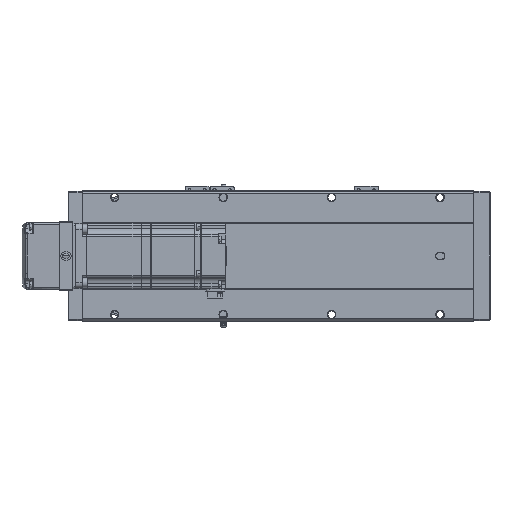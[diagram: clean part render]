
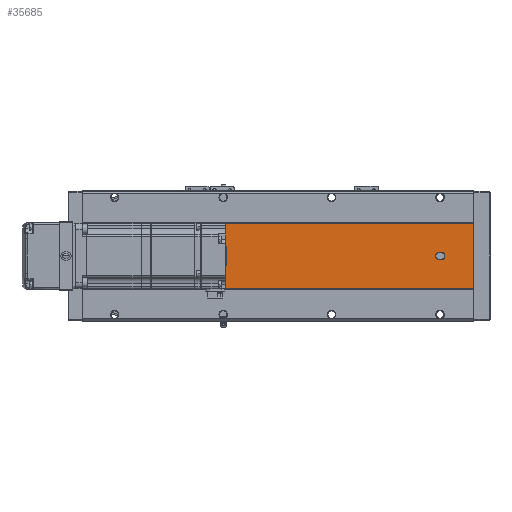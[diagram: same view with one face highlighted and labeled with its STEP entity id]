
A CAD part, front view. The second image highlights one B-rep face of the part: STEP entity #35685.
In plain terms, the highlighted planar face has unit normal (0, -1, 0).
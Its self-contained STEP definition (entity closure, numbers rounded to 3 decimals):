
#892 = VECTOR ( 'NONE', #28754, 1000. ) ;
#1267 = DIRECTION ( 'NONE',  ( 1., 0., 0. ) ) ;
#1910 = DIRECTION ( 'NONE',  ( 0., 1., 0. ) ) ;
#3615 = ORIENTED_EDGE ( 'NONE', *, *, #65077, .T. ) ;
#3944 = ORIENTED_EDGE ( 'NONE', *, *, #25605, .F. ) ;
#4463 = VECTOR ( 'NONE', #23974, 1000. ) ;
#7072 = DIRECTION ( 'NONE',  ( 0., 0., -1. ) ) ;
#7559 = DIRECTION ( 'NONE',  ( 0., 0., 1. ) ) ;
#8546 = ORIENTED_EDGE ( 'NONE', *, *, #42587, .T. ) ;
#9043 = ORIENTED_EDGE ( 'NONE', *, *, #15286, .T. ) ;
#9161 = CARTESIAN_POINT ( 'NONE',  ( -36.392, -52.848, 30. ) ) ;
#9472 = VERTEX_POINT ( 'NONE', #49500 ) ;
#9738 = VERTEX_POINT ( 'NONE', #25576 ) ;
#10846 = CIRCLE ( 'NONE', #27385, 3.5 ) ;
#11023 = LINE ( 'NONE', #71124, #37769 ) ;
#12187 = DIRECTION ( 'NONE',  ( 0., 1., 0. ) ) ;
#12765 = CARTESIAN_POINT ( 'NONE',  ( -43.392, -52.848, 30. ) ) ;
#12896 = CARTESIAN_POINT ( 'NONE',  ( -39.892, -52.848, 32. ) ) ;
#13295 = DIRECTION ( 'NONE',  ( 1., 0., 0. ) ) ;
#13731 = CARTESIAN_POINT ( 'NONE',  ( -69.892, -52.848, 361. ) ) ;
#13988 = DIRECTION ( 'NONE',  ( 0., 1., 0. ) ) ;
#14129 = CARTESIAN_POINT ( 'NONE',  ( -39.892, -52.848, 30. ) ) ;
#14337 = EDGE_CURVE ( 'NONE', #23938, #55746, #47330, .T. ) ;
#14511 = CIRCLE ( 'NONE', #26936, 3.5 ) ;
#15286 = EDGE_CURVE ( 'NONE', #36346, #25995, #65251, .T. ) ;
#16071 = AXIS2_PLACEMENT_3D ( 'NONE', #57130, #1910, #40495 ) ;
#16957 = VERTEX_POINT ( 'NONE', #29328 ) ;
#18905 = CARTESIAN_POINT ( 'NONE',  ( -69.892, -52.848, 361. ) ) ;
#18994 = LINE ( 'NONE', #24174, #29305 ) ;
#19523 = CARTESIAN_POINT ( 'NONE',  ( -39.892, -52.848, 331. ) ) ;
#20600 = DIRECTION ( 'NONE',  ( 0., 0., 1. ) ) ;
#21489 = VECTOR ( 'NONE', #1267, 1000. ) ;
#21951 = VERTEX_POINT ( 'NONE', #58605 ) ;
#22591 = ORIENTED_EDGE ( 'NONE', *, *, #29091, .T. ) ;
#23835 = EDGE_CURVE ( 'NONE', #60834, #28748, #69896, .T. ) ;
#23938 = VERTEX_POINT ( 'NONE', #30918 ) ;
#23974 = DIRECTION ( 'NONE',  ( 0., 0., -1. ) ) ;
#24174 = CARTESIAN_POINT ( 'NONE',  ( -69.892, -52.848, 0. ) ) ;
#24433 = CARTESIAN_POINT ( 'NONE',  ( -36.392, -52.848, 361. ) ) ;
#25424 = VERTEX_POINT ( 'NONE', #39126 ) ;
#25509 = VERTEX_POINT ( 'NONE', #61267 ) ;
#25576 = CARTESIAN_POINT ( 'NONE',  ( -43.392, -52.848, 32. ) ) ;
#25605 = EDGE_CURVE ( 'NONE', #55746, #16957, #44465, .T. ) ;
#25655 = DIRECTION ( 'NONE',  ( 0., 1., 0. ) ) ;
#25771 = ORIENTED_EDGE ( 'NONE', *, *, #29770, .T. ) ;
#25995 = VERTEX_POINT ( 'NONE', #12765 ) ;
#26098 = DIRECTION ( 'NONE',  ( 0., 1., 0. ) ) ;
#26508 = AXIS2_PLACEMENT_3D ( 'NONE', #19523, #13988, #58035 ) ;
#26936 = AXIS2_PLACEMENT_3D ( 'NONE', #14129, #46456, #40889 ) ;
#27385 = AXIS2_PLACEMENT_3D ( 'NONE', #31663, #25655, #20600 ) ;
#28541 = ORIENTED_EDGE ( 'NONE', *, *, #31916, .T. ) ;
#28742 = AXIS2_PLACEMENT_3D ( 'NONE', #13731, #40465, #40223 ) ;
#28748 = VERTEX_POINT ( 'NONE', #9161 ) ;
#28754 = DIRECTION ( 'NONE',  ( 0., 0., -1. ) ) ;
#29091 = EDGE_CURVE ( 'NONE', #9738, #60834, #36220, .T. ) ;
#29305 = VECTOR ( 'NONE', #13295, 1000. ) ;
#29328 = CARTESIAN_POINT ( 'NONE',  ( -9.892, -52.848, 0. ) ) ;
#29335 = AXIS2_PLACEMENT_3D ( 'NONE', #62053, #56743, #63229 ) ;
#29770 = EDGE_CURVE ( 'NONE', #9472, #58744, #32319, .T. ) ;
#30337 = CARTESIAN_POINT ( 'NONE',  ( -36.392, -52.848, 32. ) ) ;
#30368 = LINE ( 'NONE', #18905, #4463 ) ;
#30918 = CARTESIAN_POINT ( 'NONE',  ( -69.892, -52.848, 361. ) ) ;
#31582 = ORIENTED_EDGE ( 'NONE', *, *, #14337, .F. ) ;
#31663 = CARTESIAN_POINT ( 'NONE',  ( -39.892, -52.848, 231. ) ) ;
#31916 = EDGE_CURVE ( 'NONE', #21951, #16957, #18994, .T. ) ;
#32319 = CIRCLE ( 'NONE', #26508, 3.5 ) ;
#32638 = EDGE_LOOP ( 'NONE', ( #28541, #3944, #31582, #8546 ) ) ;
#34331 = CARTESIAN_POINT ( 'NONE',  ( -69.892, -52.848, 361. ) ) ;
#35293 = EDGE_CURVE ( 'NONE', #25509, #25424, #44422, .T. ) ;
#35685 = ADVANCED_FACE ( 'NONE', ( #42598, #40887, #48640, #50384 ), #68400, .F. ) ;
#35915 = VECTOR ( 'NONE', #7072, 1000. ) ;
#36220 = CIRCLE ( 'NONE', #36644, 3.5 ) ;
#36346 = VERTEX_POINT ( 'NONE', #37507 ) ;
#36644 = AXIS2_PLACEMENT_3D ( 'NONE', #12896, #12187, #7559 ) ;
#37507 = CARTESIAN_POINT ( 'NONE',  ( -39.892, -52.848, 26.5 ) ) ;
#37769 = VECTOR ( 'NONE', #66038, 1000. ) ;
#38007 = ORIENTED_EDGE ( 'NONE', *, *, #35293, .T. ) ;
#39126 = CARTESIAN_POINT ( 'NONE',  ( -39.892, -52.848, 227.5 ) ) ;
#40223 = DIRECTION ( 'NONE',  ( 0., 0., 1. ) ) ;
#40339 = EDGE_CURVE ( 'NONE', #25995, #9738, #11023, .T. ) ;
#40465 = DIRECTION ( 'NONE',  ( 0., 1., 0. ) ) ;
#40495 = DIRECTION ( 'NONE',  ( 0., 0., 1. ) ) ;
#40581 = ORIENTED_EDGE ( 'NONE', *, *, #56783, .T. ) ;
#40887 = FACE_BOUND ( 'NONE', #54906, .T. ) ;
#40889 = DIRECTION ( 'NONE',  ( 0., 0., 1. ) ) ;
#42587 = EDGE_CURVE ( 'NONE', #23938, #21951, #30368, .T. ) ;
#42598 = FACE_BOUND ( 'NONE', #60803, .T. ) ;
#44422 = CIRCLE ( 'NONE', #66609, 3.5 ) ;
#44465 = LINE ( 'NONE', #51161, #35915 ) ;
#46456 = DIRECTION ( 'NONE',  ( 0., 1., 0. ) ) ;
#47330 = LINE ( 'NONE', #34331, #21489 ) ;
#47413 = ORIENTED_EDGE ( 'NONE', *, *, #40339, .T. ) ;
#48640 = FACE_BOUND ( 'NONE', #50816, .T. ) ;
#49500 = CARTESIAN_POINT ( 'NONE',  ( -39.892, -52.848, 334.5 ) ) ;
#50384 = FACE_OUTER_BOUND ( 'NONE', #32638, .T. ) ;
#50519 = CARTESIAN_POINT ( 'NONE',  ( -39.892, -52.848, 327.5 ) ) ;
#50816 = EDGE_LOOP ( 'NONE', ( #61711, #25771 ) ) ;
#51161 = CARTESIAN_POINT ( 'NONE',  ( -9.892, -52.848, 361. ) ) ;
#54063 = EDGE_CURVE ( 'NONE', #58744, #9472, #65891, .T. ) ;
#54265 = DIRECTION ( 'NONE',  ( 0., 0., 1. ) ) ;
#54906 = EDGE_LOOP ( 'NONE', ( #40581, #38007 ) ) ;
#55746 = VERTEX_POINT ( 'NONE', #58811 ) ;
#56743 = DIRECTION ( 'NONE',  ( 0., 1., 0. ) ) ;
#56783 = EDGE_CURVE ( 'NONE', #25424, #25509, #10846, .T. ) ;
#57130 = CARTESIAN_POINT ( 'NONE',  ( -39.892, -52.848, 331. ) ) ;
#58035 = DIRECTION ( 'NONE',  ( 0., 0., 1. ) ) ;
#58605 = CARTESIAN_POINT ( 'NONE',  ( -69.892, -52.848, 0. ) ) ;
#58744 = VERTEX_POINT ( 'NONE', #50519 ) ;
#58811 = CARTESIAN_POINT ( 'NONE',  ( -9.892, -52.848, 361. ) ) ;
#59060 = CARTESIAN_POINT ( 'NONE',  ( -39.892, -52.848, 231. ) ) ;
#60803 = EDGE_LOOP ( 'NONE', ( #22591, #62900, #3615, #9043, #47413 ) ) ;
#60834 = VERTEX_POINT ( 'NONE', #30337 ) ;
#61267 = CARTESIAN_POINT ( 'NONE',  ( -39.892, -52.848, 234.5 ) ) ;
#61711 = ORIENTED_EDGE ( 'NONE', *, *, #54063, .T. ) ;
#62053 = CARTESIAN_POINT ( 'NONE',  ( -39.892, -52.848, 30. ) ) ;
#62900 = ORIENTED_EDGE ( 'NONE', *, *, #23835, .T. ) ;
#63229 = DIRECTION ( 'NONE',  ( 0., 0., 1. ) ) ;
#65077 = EDGE_CURVE ( 'NONE', #28748, #36346, #14511, .T. ) ;
#65251 = CIRCLE ( 'NONE', #29335, 3.5 ) ;
#65891 = CIRCLE ( 'NONE', #16071, 3.5 ) ;
#66038 = DIRECTION ( 'NONE',  ( 0., 0., 1. ) ) ;
#66609 = AXIS2_PLACEMENT_3D ( 'NONE', #59060, #26098, #54265 ) ;
#68400 = PLANE ( 'NONE',  #28742 ) ;
#69896 = LINE ( 'NONE', #24433, #892 ) ;
#71124 = CARTESIAN_POINT ( 'NONE',  ( -43.392, -52.848, 361. ) ) ;
